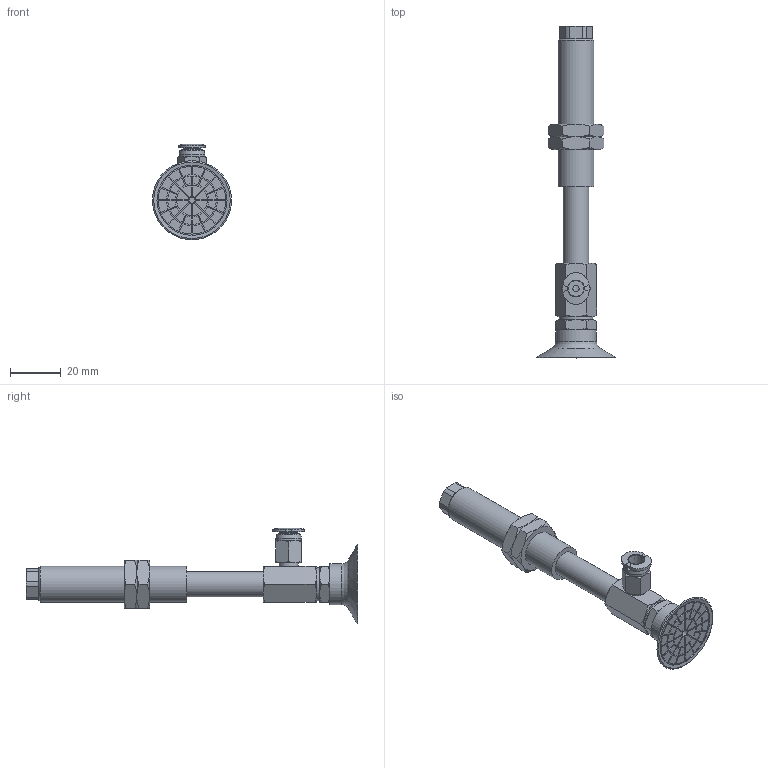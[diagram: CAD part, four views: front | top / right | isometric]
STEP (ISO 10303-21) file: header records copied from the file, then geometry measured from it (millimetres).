
FILE_DESCRIPTION(('STEP AP203'),'1');
FILE_NAME('-O.stp','2025-02-28T07:05:55',(' '),(' '),'Spatial InterOp 3D',' ',' ');
FILE_SCHEMA(('CONFIG_CONTROL_DESIGN'));
Length unit declared in the file: millimetre
Products named in the file (9): BNABPAYS-30B-30-※-O; NAPAYS-30B-30--M; NAPAYS-30B-30--F; Nut-25-S; CONNECTOR-30B-30-PA; TN-PA-30B-M6; BNABPAYS-30B-30-※-O.ics; PC-C_06-M5; BPAG-30B-※_3D
Assembly tree (9 placements, depth 3):
  BNABPAYS-30B-30-※-O.ics
    BNABPAYS-30B-30-※-O
      NAPAYS-30B-30--M
      NAPAYS-30B-30--F
      Nut-25-S  x2
      CONNECTOR-30B-30-PA
      TN-PA-30B-M6
    PC-C_06-M5
    BPAG-30B-※_3D
Bounding box: 31.04 x 130.2 x 37.5 mm (x, y, z)
Volume: 20280.8 mm3; surface area: 16356.2 mm2
Topology: 7 solids, 10 shells, 415 faces, 945 edges, 600 vertices
Faces by surface type: plane 212, cylinder 107, cone 81, torus 8, bspline 4, revolution 3
Full cylindrical faces by diameter (mm): 2.5 x1, 3 x2, 4 x2, 4.134 x2, 4.917 x1, 5 x2, 6 x3, 7 x1, 7.4 x1, 8.2 x1, 10 x5, 12.917 x2, 13 x1, 14 x1, 16 x1, 27.5 x1
Entity records: 11692 total; most frequent: CARTESIAN_POINT 2593, DIRECTION 1831, ORIENTED_EDGE 1668, EDGE_CURVE 836, AXIS2_PLACEMENT_3D 702, VERTEX_POINT 564, EDGE_LOOP 510, LINE 424
